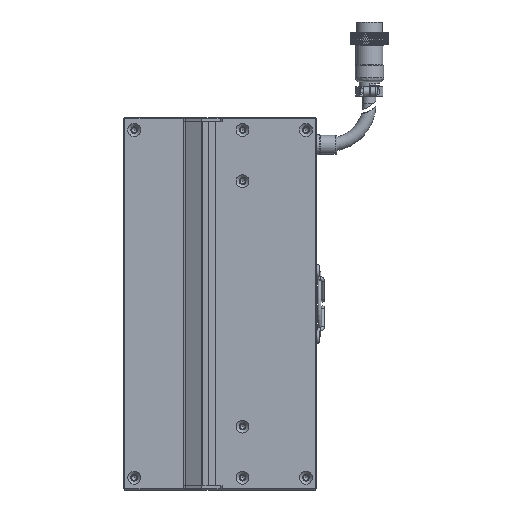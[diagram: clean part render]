
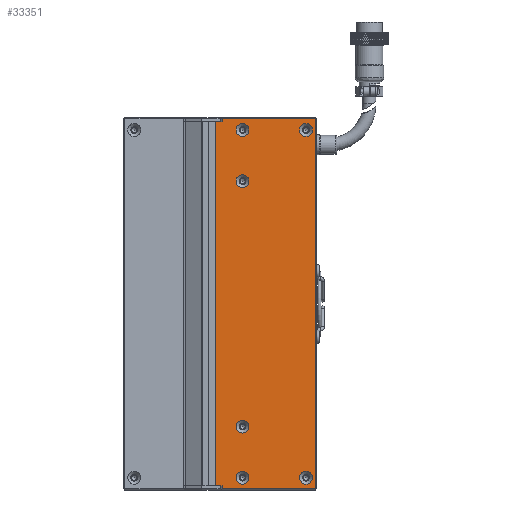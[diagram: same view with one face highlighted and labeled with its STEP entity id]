
A CAD part, left-side view. The second image highlights one B-rep face of the part: STEP entity #33351.
In plain terms, the highlighted planar face has unit normal (-1, 0, 0).
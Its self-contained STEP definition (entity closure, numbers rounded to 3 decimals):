
#1190 = AXIS2_PLACEMENT_3D ( 'NONE', #50225, #104898, #4468 ) ;
#1520 = DIRECTION ( 'NONE',  ( -1., 0., 0. ) ) ;
#1921 = CARTESIAN_POINT ( 'NONE',  ( -24.998, -72., -90.5 ) ) ;
#2038 = ORIENTED_EDGE ( 'NONE', *, *, #91905, .T. ) ;
#2048 = CARTESIAN_POINT ( 'NONE',  ( -24.998, -23.25, -89. ) ) ;
#2966 = CARTESIAN_POINT ( 'NONE',  ( -24.998, -72.5, -90.5 ) ) ;
#3235 = DIRECTION ( 'NONE',  ( 0., 0., 1. ) ) ;
#4468 = DIRECTION ( 'NONE',  ( 0., 0., 1. ) ) ;
#8099 = CARTESIAN_POINT ( 'NONE',  ( -24.998, -36.5, -56.85 ) ) ;
#9023 = DIRECTION ( 'NONE',  ( 0., 0., 1. ) ) ;
#9228 = PLANE ( 'NONE',  #63111 ) ;
#9970 = ORIENTED_EDGE ( 'NONE', *, *, #93857, .F. ) ;
#10269 = EDGE_CURVE ( 'NONE', #58868, #74206, #90924, .T. ) ;
#10276 = VERTEX_POINT ( 'NONE', #35909 ) ;
#10580 = DIRECTION ( 'NONE',  ( -1., 0., 0. ) ) ;
#11678 = CARTESIAN_POINT ( 'NONE',  ( -24.998, -67.5, -85. ) ) ;
#11721 = DIRECTION ( 'NONE',  ( 0., 0., 1. ) ) ;
#11926 = LINE ( 'NONE', #2048, #30411 ) ;
#12004 = VERTEX_POINT ( 'NONE', #20622 ) ;
#12474 = DIRECTION ( 'NONE',  ( 0., 0., 1. ) ) ;
#12611 = CARTESIAN_POINT ( 'NONE',  ( -24.998, -26.5, 90.5 ) ) ;
#14156 = VECTOR ( 'NONE', #15412, 1000. ) ;
#14166 = CARTESIAN_POINT ( 'NONE',  ( -24.998, -23.25, -89. ) ) ;
#14905 = ORIENTED_EDGE ( 'NONE', *, *, #109288, .F. ) ;
#15412 = DIRECTION ( 'NONE',  ( 0., 0., -1. ) ) ;
#15421 = VECTOR ( 'NONE', #31703, 1000. ) ;
#15519 = CARTESIAN_POINT ( 'NONE',  ( -24.998, -23.25, 89. ) ) ;
#15915 = EDGE_CURVE ( 'NONE', #68571, #33619, #11926, .T. ) ;
#17539 = FACE_OUTER_BOUND ( 'NONE', #38099, .T. ) ;
#18549 = LINE ( 'NONE', #92964, #38347 ) ;
#18970 = CARTESIAN_POINT ( 'NONE',  ( -24.998, -36.5, -85. ) ) ;
#19879 = ORIENTED_EDGE ( 'NONE', *, *, #68284, .F. ) ;
#20145 = DIRECTION ( 'NONE',  ( 0., -1., 0. ) ) ;
#20370 = FACE_BOUND ( 'NONE', #51407, .T. ) ;
#20622 = CARTESIAN_POINT ( 'NONE',  ( -24.998, -72., 90.5 ) ) ;
#20878 = ORIENTED_EDGE ( 'NONE', *, *, #115693, .F. ) ;
#21037 = CARTESIAN_POINT ( 'NONE',  ( -24.998, -36.5, -60. ) ) ;
#22892 = CARTESIAN_POINT ( 'NONE',  ( -24.998, -67.5, 88.15 ) ) ;
#23079 = VERTEX_POINT ( 'NONE', #88315 ) ;
#23723 = LINE ( 'NONE', #2966, #29431 ) ;
#23769 = EDGE_CURVE ( 'NONE', #100315, #100315, #53697, .T. ) ;
#23871 = VECTOR ( 'NONE', #54201, 1000. ) ;
#24875 = AXIS2_PLACEMENT_3D ( 'NONE', #21037, #1520, #65656 ) ;
#25368 = LINE ( 'NONE', #41819, #23871 ) ;
#26098 = FACE_BOUND ( 'NONE', #74720, .T. ) ;
#26636 = ORIENTED_EDGE ( 'NONE', *, *, #65314, .T. ) ;
#27420 = VECTOR ( 'NONE', #60205, 1000. ) ;
#27444 = EDGE_CURVE ( 'NONE', #12004, #62327, #63855, .T. ) ;
#29431 = VECTOR ( 'NONE', #20145, 1000. ) ;
#30236 = LINE ( 'NONE', #59801, #27420 ) ;
#30411 = VECTOR ( 'NONE', #3235, 1000. ) ;
#31703 = DIRECTION ( 'NONE',  ( 0., 1., 0. ) ) ;
#32485 = CARTESIAN_POINT ( 'NONE',  ( -24.998, -26.5, 82. ) ) ;
#33351 = ADVANCED_FACE ( 'NONE', ( #113147, #94654, #74576, #26098, #50255, #20370, #17539 ), #9228, .F. ) ;
#33516 = CIRCLE ( 'NONE', #24875, 3.15 ) ;
#33619 = VERTEX_POINT ( 'NONE', #15519 ) ;
#35312 = ORIENTED_EDGE ( 'NONE', *, *, #10269, .T. ) ;
#35909 = CARTESIAN_POINT ( 'NONE',  ( -24.998, -36.5, -81.85 ) ) ;
#36654 = DIRECTION ( 'NONE',  ( -1., 0., 0. ) ) ;
#38099 = EDGE_LOOP ( 'NONE', ( #2038, #35312, #59021, #96819, #51540, #26636, #19879, #60442 ) ) ;
#38347 = VECTOR ( 'NONE', #93343, 1000. ) ;
#40810 = ORIENTED_EDGE ( 'NONE', *, *, #23769, .F. ) ;
#41819 = CARTESIAN_POINT ( 'NONE',  ( -24.998, -72.5, 89. ) ) ;
#42584 = CARTESIAN_POINT ( 'NONE',  ( -24.998, -26.5, -89. ) ) ;
#43646 = EDGE_LOOP ( 'NONE', ( #59125 ) ) ;
#46579 = EDGE_CURVE ( 'NONE', #77628, #12004, #30236, .T. ) ;
#48638 = EDGE_CURVE ( 'NONE', #115952, #115952, #72809, .T. ) ;
#49207 = CARTESIAN_POINT ( 'NONE',  ( -24.998, -26.5, 89. ) ) ;
#49736 = EDGE_CURVE ( 'NONE', #58803, #58803, #59815, .T. ) ;
#50225 = CARTESIAN_POINT ( 'NONE',  ( -24.998, -67.5, 85. ) ) ;
#50255 = FACE_BOUND ( 'NONE', #50462, .T. ) ;
#50462 = EDGE_LOOP ( 'NONE', ( #107591 ) ) ;
#51407 = EDGE_LOOP ( 'NONE', ( #20878 ) ) ;
#51540 = ORIENTED_EDGE ( 'NONE', *, *, #27444, .T. ) ;
#51604 = VERTEX_POINT ( 'NONE', #49207 ) ;
#53697 = CIRCLE ( 'NONE', #85824, 3.15 ) ;
#53848 = DIRECTION ( 'NONE',  ( 0., 0., -1. ) ) ;
#54201 = DIRECTION ( 'NONE',  ( 0., -1., 0. ) ) ;
#57936 = VECTOR ( 'NONE', #89711, 1000. ) ;
#58408 = CARTESIAN_POINT ( 'NONE',  ( -24.998, -72.5, 90.5 ) ) ;
#58803 = VERTEX_POINT ( 'NONE', #103398 ) ;
#58868 = VERTEX_POINT ( 'NONE', #42584 ) ;
#59021 = ORIENTED_EDGE ( 'NONE', *, *, #78203, .T. ) ;
#59125 = ORIENTED_EDGE ( 'NONE', *, *, #48638, .F. ) ;
#59801 = CARTESIAN_POINT ( 'NONE',  ( -24.998, -72., 89. ) ) ;
#59815 = CIRCLE ( 'NONE', #99895, 3.15 ) ;
#60205 = DIRECTION ( 'NONE',  ( 0., 0., 1. ) ) ;
#60442 = ORIENTED_EDGE ( 'NONE', *, *, #15915, .F. ) ;
#62327 = VERTEX_POINT ( 'NONE', #12611 ) ;
#62995 = CARTESIAN_POINT ( 'NONE',  ( -24.998, -72.5, 89. ) ) ;
#63003 = DIRECTION ( 'NONE',  ( 0., 0., 1. ) ) ;
#63111 = AXIS2_PLACEMENT_3D ( 'NONE', #62995, #64178, #53848 ) ;
#63855 = LINE ( 'NONE', #58408, #15421 ) ;
#64178 = DIRECTION ( 'NONE',  ( 1., 0., 0. ) ) ;
#65314 = EDGE_CURVE ( 'NONE', #62327, #51604, #73939, .T. ) ;
#65656 = DIRECTION ( 'NONE',  ( 0., 0., 1. ) ) ;
#65877 = DIRECTION ( 'NONE',  ( -1., 0., 0. ) ) ;
#68284 = EDGE_CURVE ( 'NONE', #33619, #51604, #25368, .T. ) ;
#68571 = VERTEX_POINT ( 'NONE', #14166 ) ;
#69031 = EDGE_LOOP ( 'NONE', ( #14905 ) ) ;
#72191 = CARTESIAN_POINT ( 'NONE',  ( -24.998, -36.5, 85. ) ) ;
#72809 = CIRCLE ( 'NONE', #1190, 3.15 ) ;
#73939 = LINE ( 'NONE', #32485, #14156 ) ;
#74206 = VERTEX_POINT ( 'NONE', #101359 ) ;
#74576 = FACE_BOUND ( 'NONE', #43646, .T. ) ;
#74720 = EDGE_LOOP ( 'NONE', ( #40810 ) ) ;
#76528 = AXIS2_PLACEMENT_3D ( 'NONE', #18970, #10580, #9023 ) ;
#77628 = VERTEX_POINT ( 'NONE', #1921 ) ;
#78203 = EDGE_CURVE ( 'NONE', #74206, #77628, #23723, .T. ) ;
#83990 = CIRCLE ( 'NONE', #107800, 3.15 ) ;
#85824 = AXIS2_PLACEMENT_3D ( 'NONE', #93498, #65877, #11721 ) ;
#85913 = CARTESIAN_POINT ( 'NONE',  ( -24.998, -36.5, 63.15 ) ) ;
#88315 = CARTESIAN_POINT ( 'NONE',  ( -24.998, -67.5, -81.85 ) ) ;
#89711 = DIRECTION ( 'NONE',  ( 0., 0., -1. ) ) ;
#90924 = LINE ( 'NONE', #107996, #57936 ) ;
#91905 = EDGE_CURVE ( 'NONE', #68571, #58868, #18549, .T. ) ;
#92964 = CARTESIAN_POINT ( 'NONE',  ( -24.998, -72.5, -89. ) ) ;
#93343 = DIRECTION ( 'NONE',  ( 0., -1., 0. ) ) ;
#93498 = CARTESIAN_POINT ( 'NONE',  ( -24.998, -36.5, 60. ) ) ;
#93857 = EDGE_CURVE ( 'NONE', #23079, #23079, #83990, .T. ) ;
#94239 = DIRECTION ( 'NONE',  ( -1., 0., 0. ) ) ;
#94654 = FACE_BOUND ( 'NONE', #69031, .T. ) ;
#96819 = ORIENTED_EDGE ( 'NONE', *, *, #46579, .T. ) ;
#99895 = AXIS2_PLACEMENT_3D ( 'NONE', #72191, #36654, #63003 ) ;
#100315 = VERTEX_POINT ( 'NONE', #85913 ) ;
#101359 = CARTESIAN_POINT ( 'NONE',  ( -24.998, -26.5, -90.5 ) ) ;
#103398 = CARTESIAN_POINT ( 'NONE',  ( -24.998, -36.5, 88.15 ) ) ;
#104898 = DIRECTION ( 'NONE',  ( -1., 0., 0. ) ) ;
#107591 = ORIENTED_EDGE ( 'NONE', *, *, #49736, .F. ) ;
#107800 = AXIS2_PLACEMENT_3D ( 'NONE', #11678, #94239, #12474 ) ;
#107996 = CARTESIAN_POINT ( 'NONE',  ( -24.998, -26.5, -82. ) ) ;
#109288 = EDGE_CURVE ( 'NONE', #10276, #10276, #115337, .T. ) ;
#110809 = EDGE_LOOP ( 'NONE', ( #9970 ) ) ;
#112971 = VERTEX_POINT ( 'NONE', #8099 ) ;
#113147 = FACE_BOUND ( 'NONE', #110809, .T. ) ;
#115337 = CIRCLE ( 'NONE', #76528, 3.15 ) ;
#115693 = EDGE_CURVE ( 'NONE', #112971, #112971, #33516, .T. ) ;
#115952 = VERTEX_POINT ( 'NONE', #22892 ) ;
